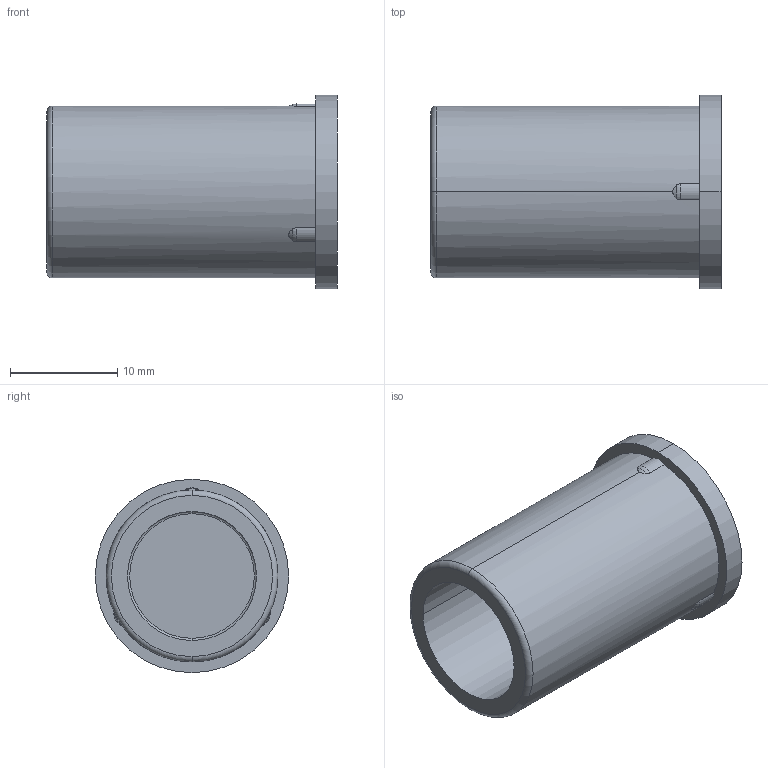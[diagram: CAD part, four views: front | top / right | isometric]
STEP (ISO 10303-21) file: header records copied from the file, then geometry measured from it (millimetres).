
FILE_DESCRIPTION(('Creo Elements/Direct Modeling STEP Export'),'2;1');
FILE_NAME('H20-0031-CL901-00_BB-160S.stp','2021-09-07T12:04:53',(''),(''),'Creo Elements/Direct Modeling STEP processor for AP214 (Solid Model)','Creo Elements/Direct Modeling 20.3B 05-Dec-2020 (C) Parametric Technology GmbH','');
FILE_SCHEMA(('AUTOMOTIVE_DESIGN { 1 0 10303 214 1 1 1 1 }'));
Length unit declared in the file: millimetre
Products named in the file (2): BB-160S
Assembly tree (1 placements, depth 2):
  BB-160S
    BB-160S
Bounding box: 27 x 18 x 18 mm (x, y, z)
Volume: 2650.5 mm3; surface area: 2825.9 mm2
Topology: 1 solids, 1 shells, 26 faces, 116 edges, 97 vertices
Faces by surface type: cylinder 9, plane 7, torus 7, cone 3
Entity records: 1370 total; most frequent: CARTESIAN_POINT 370, ORIENTED_EDGE 232, DIRECTION 166, EDGE_CURVE 116, VERTEX_POINT 97, VECTOR 72, LINE 72, AXIS2_PLACEMENT_3D 47
